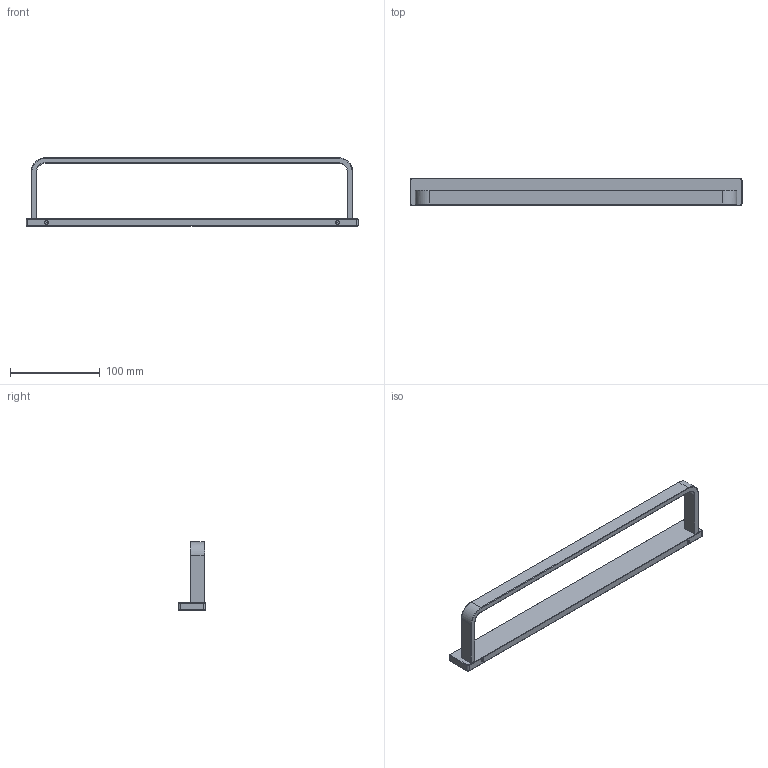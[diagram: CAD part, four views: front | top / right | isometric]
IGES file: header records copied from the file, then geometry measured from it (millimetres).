
Global section: file name: 03b1a018-409c-4854-a923-c6dd884e4667; native system: unknown; preprocessor: unknown; author: unknown; organization: unknown; date: 20200107.145114; units: millimetre
Bounding box: 370 x 30 x 76 mm (x, y, z)
Volume: 133769.6 mm3; surface area: 48816.4 mm2
Topology: 2 solids, 2 shells, 72 faces, 166 edges, 100 vertices
Faces by surface type: bspline 72
